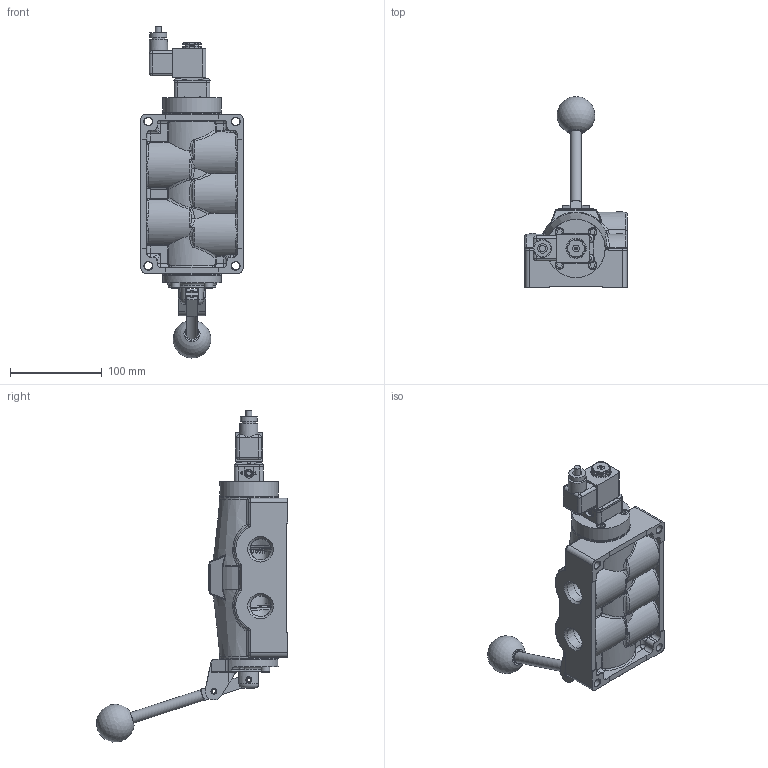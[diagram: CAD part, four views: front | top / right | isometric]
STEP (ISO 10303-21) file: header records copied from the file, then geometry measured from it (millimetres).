
FILE_DESCRIPTION(/* description */ (''),/* implementation_level */ '2;1');
FILE_NAME(/* name */ 'D:\Engineering\Product\valves\Assembly\Standard\ESAH\stp\ESAH6TC.stp',/* time_stamp */ '2021-04-12T08:24:30-04:00',/* author */ ('RMcKenna'),/* organization */ (''),/* preprocessor_version */ 'ST-DEVELOPER v18.1',/* originating_system */ 'Autodesk Inventor 2021',/* authorisation */ '');
FILE_SCHEMA (('AUTOMOTIVE_DESIGN { 1 0 10303 214 3 1 1 }'));
Products named in the file (1): Part20
Bounding box: 111.12 x 208.05 x 361.6 mm (x, y, z)
Volume: 1180394.5 mm3; surface area: 232587.8 mm2
Topology: 2 solids, 41 shells, 2587 faces, 6234 edges, 3816 vertices
Faces by surface type: plane 895, cylinder 709, cone 345, bspline 335, torus 210, sphere 93
Full cylindrical faces by diameter (mm): 1.168 x10, 1.3 x1, 1.397 x1, 1.5 x1, 2.032 x8, 2.07 x2, 2.261 x2, 2.35 x4, 2.388 x1, 2.778 x2, 2.8 x1, 2.819 x1, 3 x4, 3.048 x3, 3.175 x2, 3.4 x1, 3.683 x5, 3.962 x2, 4.191 x2, 4.826 x4, 4.953 x1, 4.978 x9, 5.15 x4, 5.156 x4, 5.5 x1, 6.35 x12, 6.553 x1, 6.731 x1, 6.747 x4, 7.137 x4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
Entity records: 102021 total; most frequent: CARTESIAN_POINT 41106, ORIENTED_EDGE 12310, DIRECTION 11777, EDGE_CURVE 6155, AXIS2_PLACEMENT_3D 4614, VERTEX_POINT 3816, EDGE_LOOP 2855, FACE_OUTER_BOUND 2587
